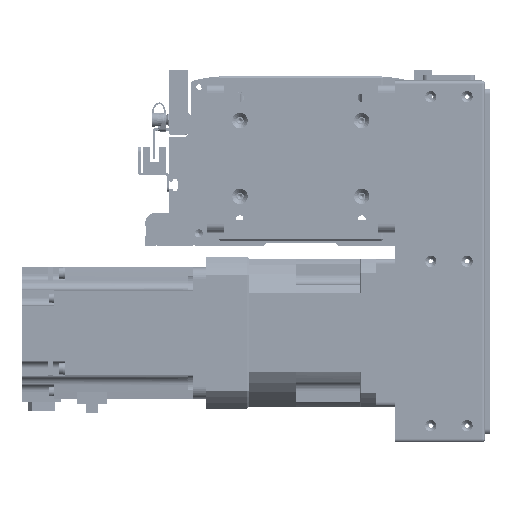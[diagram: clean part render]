
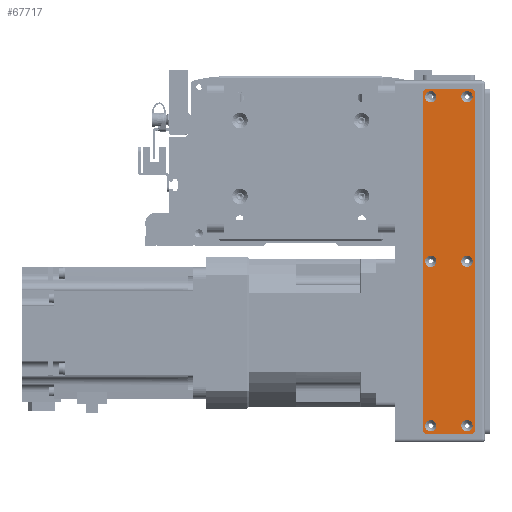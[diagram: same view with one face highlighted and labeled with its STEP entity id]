
A CAD part, front view. The second image highlights one B-rep face of the part: STEP entity #67717.
In plain terms, the highlighted planar face has unit normal (0, -1, 0).
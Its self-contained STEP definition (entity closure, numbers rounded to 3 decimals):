
#2722=FACE_BOUND('',#14089,.T.);
#2723=FACE_BOUND('',#14090,.T.);
#2724=FACE_BOUND('',#14091,.T.);
#2725=FACE_BOUND('',#14092,.T.);
#2726=FACE_BOUND('',#14093,.T.);
#2727=FACE_BOUND('',#14094,.T.);
#4843=PLANE('',#74899);
#9787=FACE_OUTER_BOUND('',#14088,.T.);
#14088=EDGE_LOOP('',(#63658,#63659,#63660,#63661,#63662,#63663,#63664,#63665));
#14089=EDGE_LOOP('',(#63666));
#14090=EDGE_LOOP('',(#63667));
#14091=EDGE_LOOP('',(#63668));
#14092=EDGE_LOOP('',(#63669));
#14093=EDGE_LOOP('',(#63670));
#14094=EDGE_LOOP('',(#63671));
#20386=LINE('',#116475,#26639);
#20387=LINE('',#116479,#26640);
#20388=LINE('',#116483,#26641);
#20389=LINE('',#116486,#26642);
#26639=VECTOR('',#94151,10.);
#26640=VECTOR('',#94154,10.);
#26641=VECTOR('',#94157,10.);
#26642=VECTOR('',#94160,10.);
#29256=CIRCLE('',#74867,3.45);
#29259=CIRCLE('',#74872,3.45);
#29262=CIRCLE('',#74877,3.45);
#29265=CIRCLE('',#74882,3.45);
#29268=CIRCLE('',#74887,3.45);
#29271=CIRCLE('',#74892,3.45);
#29274=CIRCLE('',#74897,3.);
#29276=CIRCLE('',#74900,3.);
#29277=CIRCLE('',#74901,3.);
#29278=CIRCLE('',#74902,3.);
#35483=VERTEX_POINT('',#116405);
#35486=VERTEX_POINT('',#116415);
#35489=VERTEX_POINT('',#116425);
#35492=VERTEX_POINT('',#116435);
#35495=VERTEX_POINT('',#116445);
#35498=VERTEX_POINT('',#116455);
#35501=VERTEX_POINT('',#116465);
#35502=VERTEX_POINT('',#116466);
#35505=VERTEX_POINT('',#116474);
#35506=VERTEX_POINT('',#116476);
#35507=VERTEX_POINT('',#116478);
#35508=VERTEX_POINT('',#116480);
#35509=VERTEX_POINT('',#116482);
#35510=VERTEX_POINT('',#116484);
#44872=EDGE_CURVE('',#35483,#35483,#29256,.T.);
#44877=EDGE_CURVE('',#35486,#35486,#29259,.T.);
#44882=EDGE_CURVE('',#35489,#35489,#29262,.T.);
#44887=EDGE_CURVE('',#35492,#35492,#29265,.T.);
#44892=EDGE_CURVE('',#35495,#35495,#29268,.T.);
#44897=EDGE_CURVE('',#35498,#35498,#29271,.T.);
#44902=EDGE_CURVE('',#35501,#35502,#29274,.T.);
#44906=EDGE_CURVE('',#35501,#35505,#20386,.T.);
#44907=EDGE_CURVE('',#35506,#35505,#29276,.T.);
#44908=EDGE_CURVE('',#35506,#35507,#20387,.T.);
#44909=EDGE_CURVE('',#35508,#35507,#29277,.T.);
#44910=EDGE_CURVE('',#35508,#35509,#20388,.T.);
#44911=EDGE_CURVE('',#35510,#35509,#29278,.T.);
#44912=EDGE_CURVE('',#35510,#35502,#20389,.T.);
#63658=ORIENTED_EDGE('',*,*,#44902,.F.);
#63659=ORIENTED_EDGE('',*,*,#44906,.T.);
#63660=ORIENTED_EDGE('',*,*,#44907,.F.);
#63661=ORIENTED_EDGE('',*,*,#44908,.T.);
#63662=ORIENTED_EDGE('',*,*,#44909,.F.);
#63663=ORIENTED_EDGE('',*,*,#44910,.T.);
#63664=ORIENTED_EDGE('',*,*,#44911,.F.);
#63665=ORIENTED_EDGE('',*,*,#44912,.T.);
#63666=ORIENTED_EDGE('',*,*,#44872,.T.);
#63667=ORIENTED_EDGE('',*,*,#44877,.T.);
#63668=ORIENTED_EDGE('',*,*,#44882,.T.);
#63669=ORIENTED_EDGE('',*,*,#44887,.T.);
#63670=ORIENTED_EDGE('',*,*,#44892,.T.);
#63671=ORIENTED_EDGE('',*,*,#44897,.T.);
#67717=ADVANCED_FACE('',(#9787,#2722,#2723,#2724,#2725,#2726,#2727),#4843,
 .T.);
#74867=AXIS2_PLACEMENT_3D('',#116406,#94071,#94072);
#74872=AXIS2_PLACEMENT_3D('',#116416,#94083,#94084);
#74877=AXIS2_PLACEMENT_3D('',#116426,#94095,#94096);
#74882=AXIS2_PLACEMENT_3D('',#116436,#94107,#94108);
#74887=AXIS2_PLACEMENT_3D('',#116446,#94119,#94120);
#74892=AXIS2_PLACEMENT_3D('',#116456,#94131,#94132);
#74897=AXIS2_PLACEMENT_3D('',#116467,#94143,#94144);
#74899=AXIS2_PLACEMENT_3D('',#116473,#94149,#94150);
#74900=AXIS2_PLACEMENT_3D('',#116477,#94152,#94153);
#74901=AXIS2_PLACEMENT_3D('',#116481,#94155,#94156);
#74902=AXIS2_PLACEMENT_3D('',#116485,#94158,#94159);
#94071=DIRECTION('center_axis',(0.,1.,0.));
#94072=DIRECTION('ref_axis',(1.,0.,0.));
#94083=DIRECTION('center_axis',(0.,1.,0.));
#94084=DIRECTION('ref_axis',(1.,0.,0.));
#94095=DIRECTION('center_axis',(0.,1.,0.));
#94096=DIRECTION('ref_axis',(1.,0.,0.));
#94107=DIRECTION('center_axis',(0.,1.,0.));
#94108=DIRECTION('ref_axis',(1.,0.,0.));
#94119=DIRECTION('center_axis',(0.,1.,0.));
#94120=DIRECTION('ref_axis',(1.,0.,0.));
#94131=DIRECTION('center_axis',(0.,1.,0.));
#94132=DIRECTION('ref_axis',(1.,0.,0.));
#94143=DIRECTION('center_axis',(0.,1.,0.));
#94144=DIRECTION('ref_axis',(-0.707,0.,0.707));
#94149=DIRECTION('center_axis',(0.,-1.,0.));
#94150=DIRECTION('ref_axis',(0.,0.,-1.));
#94151=DIRECTION('',(0.,0.,-1.));
#94152=DIRECTION('center_axis',(0.,1.,0.));
#94153=DIRECTION('ref_axis',(-0.707,0.,-0.707));
#94154=DIRECTION('',(1.,0.,0.));
#94155=DIRECTION('center_axis',(0.,1.,0.));
#94156=DIRECTION('ref_axis',(0.707,0.,-0.707));
#94157=DIRECTION('',(0.,0.,1.));
#94158=DIRECTION('center_axis',(0.,1.,0.));
#94159=DIRECTION('ref_axis',(0.707,0.,0.707));
#94160=DIRECTION('',(-1.,0.,0.));
#116405=CARTESIAN_POINT('',(96.55,-1.5,11.));
#116406=CARTESIAN_POINT('Origin',(100.,-1.5,11.));
#116415=CARTESIAN_POINT('',(-103.45,-1.5,-11.));
#116416=CARTESIAN_POINT('Origin',(-100.,-1.5,-11.));
#116425=CARTESIAN_POINT('',(-3.45,-1.5,11.));
#116426=CARTESIAN_POINT('Origin',(0.,-1.5,11.));
#116435=CARTESIAN_POINT('',(-3.45,-1.5,-11.));
#116436=CARTESIAN_POINT('Origin',(0.,-1.5,-11.));
#116445=CARTESIAN_POINT('',(-103.45,-1.5,11.));
#116446=CARTESIAN_POINT('Origin',(-100.,-1.5,11.));
#116455=CARTESIAN_POINT('',(96.55,-1.5,-11.));
#116456=CARTESIAN_POINT('Origin',(100.,-1.5,-11.));
#116465=CARTESIAN_POINT('',(-105.,-1.5,13.));
#116466=CARTESIAN_POINT('',(-102.,-1.5,16.));
#116467=CARTESIAN_POINT('Origin',(-102.,-1.5,13.));
#116473=CARTESIAN_POINT('Origin',(0.,-1.5,0.));
#116474=CARTESIAN_POINT('',(-105.,-1.5,-13.));
#116475=CARTESIAN_POINT('',(-105.,-1.5,16.));
#116476=CARTESIAN_POINT('',(-102.,-1.5,-16.));
#116477=CARTESIAN_POINT('Origin',(-102.,-1.5,-13.));
#116478=CARTESIAN_POINT('',(102.,-1.5,-16.));
#116479=CARTESIAN_POINT('',(-105.,-1.5,-16.));
#116480=CARTESIAN_POINT('',(105.,-1.5,-13.));
#116481=CARTESIAN_POINT('Origin',(102.,-1.5,-13.));
#116482=CARTESIAN_POINT('',(105.,-1.5,13.));
#116483=CARTESIAN_POINT('',(105.,-1.5,-16.));
#116484=CARTESIAN_POINT('',(102.,-1.5,16.));
#116485=CARTESIAN_POINT('Origin',(102.,-1.5,13.));
#116486=CARTESIAN_POINT('',(105.,-1.5,16.));
